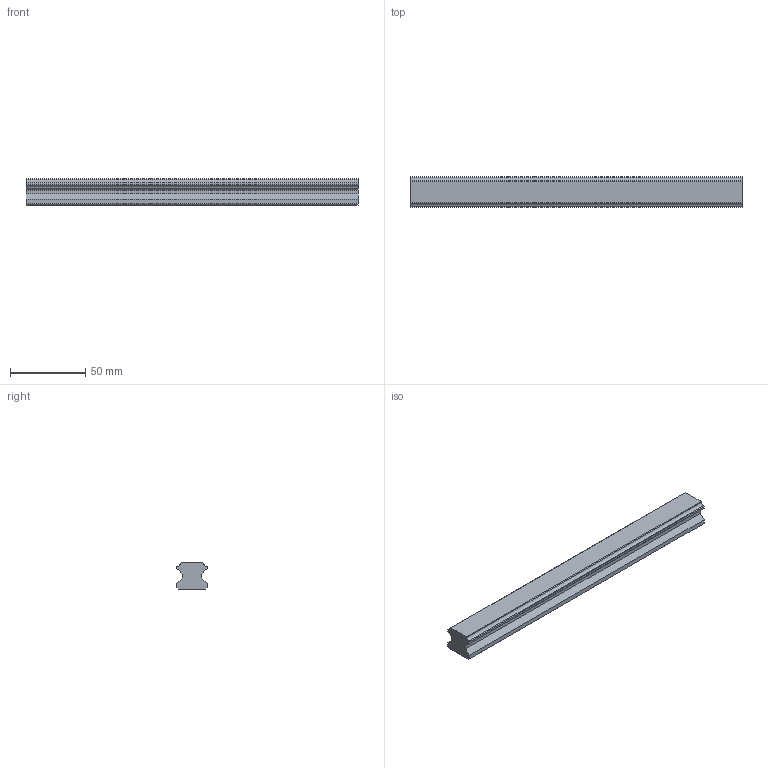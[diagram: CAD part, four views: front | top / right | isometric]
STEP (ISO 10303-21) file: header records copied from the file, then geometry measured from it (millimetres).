
FILE_DESCRIPTION(('starvars output'),'2;1');
FILE_NAME('cv20190626230346000044654.stp','23:03:47 2019/06/26',( 'Thomas Industrial Network Germany GmbH'),( 'Thomas Industrial Network Germany GmbH'),'unknown preprocess','ACIS' ,'unknown authorization');
FILE_SCHEMA(('CONFIG_CONTROL_DESIGN {UNKNOWN IMPLEMENTATION LEVEL}'));
Length unit declared in the file: millimetre
Products named in the file (1): PRODUCT_ID_1
Bounding box: 220 x 20 x 17.5 mm (x, y, z)
Volume: 64356.1 mm3; surface area: 18317.6 mm2
Topology: 1 solids, 1 shells, 70 faces, 168 edges, 100 vertices
Faces by surface type: plane 26, cone 24, cylinder 20
Entity records: 1825 total; most frequent: ORIENTED_EDGE 320, CARTESIAN_POINT 286, DIRECTION 268, EDGE_CURVE 160, VECTOR 104, LINE 104, VERTEX_POINT 100, AXIS2_PLACEMENT_3D 82
